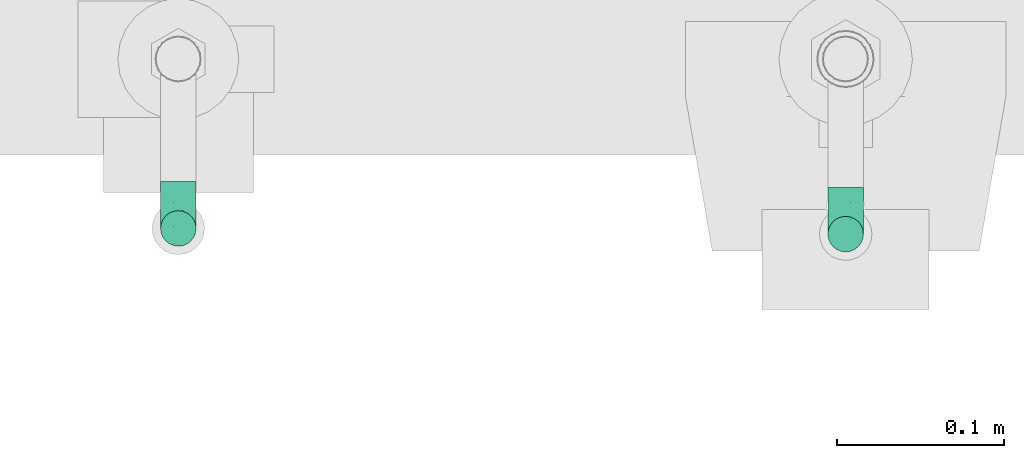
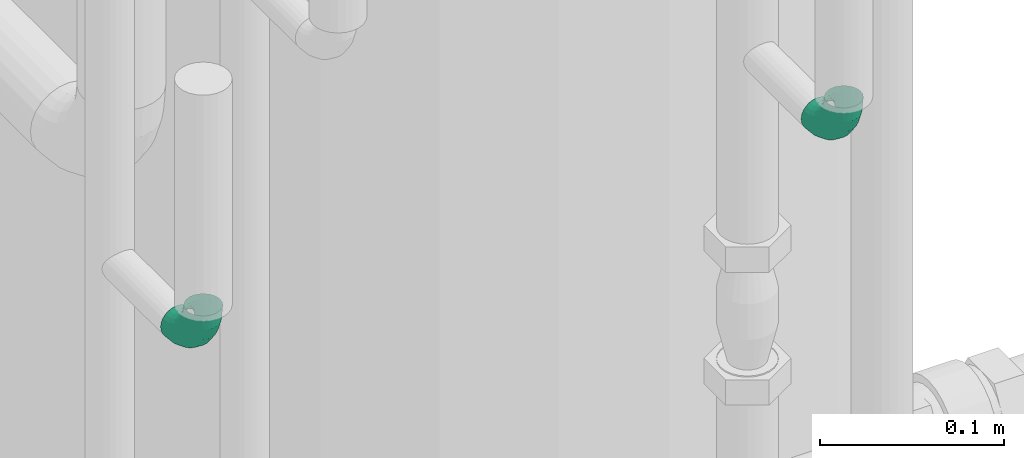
# One storey, part 192 of 374: 2 flow segments.
"""IFC2X3 building model written with IfcOpenShell, lengths in metres."""

from ifc_helpers import new_model, si_unit, direction, origin, place, context, subcontext, project, spatial, open_shell, surface_model, source, transform, mapped, element, save


model = new_model("IFC2X3")

# Units and contexts
model_context = context("Model", 3, precision=1e-05, world=origin(), true_north=direction((-0.4480736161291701, 0.8939966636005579)))
body_context = subcontext(model_context, "Body", "Model", "MODEL_VIEW")
ifc_project = project(units=[si_unit("LENGTHUNIT", "METRE"), si_unit("AREAUNIT", "SQUARE_METRE"), si_unit("VOLUMEUNIT", "CUBIC_METRE"), si_unit("PLANEANGLEUNIT", "RADIAN"), si_unit("THERMODYNAMICTEMPERATUREUNIT", "KELVIN"), si_unit("MASSUNIT", "GRAM", prefix="KILO"), si_unit("TIMEUNIT", "SECOND")], contexts=[model_context])

# Site, building, storey
site_placement = place(None, origin())
site = spatial("IfcSite", under=ifc_project, at=site_placement, Name="Site 1", CompositionType="ELEMENT")
building_placement = place(site_placement, origin())
building = spatial("IfcBuilding", under=site, at=building_placement, Name="Undefined", CompositionType="ELEMENT")
storey_placement = place(building_placement, origin())
storey = spatial("IfcBuildingStorey", under=building, at=storey_placement, Name="Rez de chauss\x8ee", CompositionType="ELEMENT", Elevation=0.0)

# Flow segments
shared_shape_1 = source(origin(), body_context, "Body", "SurfaceModel", [
    surface_model("IfcFaceBasedSurfaceModel", [(0.010089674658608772, 0.0, 1.33226763e-15), (0.010042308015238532, 0.002779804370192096, 1.33226763e-15), (4.73666433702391e-05, 0.0027798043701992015, 4.4408921e-16), (0.0, 0.0, 0.0), (-0.009607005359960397, 0.00311462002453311, -0.0025651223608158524), (-0.00974587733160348, 0.0003379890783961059, -0.0025894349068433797), (-0.01826287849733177, 0.003761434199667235, -0.007520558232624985), (-0.018483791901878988, 0.000990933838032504, -0.007591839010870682), (-0.025330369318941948, 0.004676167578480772, -0.014528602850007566), (-0.025618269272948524, 0.001914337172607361, -0.014666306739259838), (-0.030327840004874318, 0.005796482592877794, -0.023111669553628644), (-0.030663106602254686, 0.003045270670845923, -0.023330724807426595), (-0.03291472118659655, 0.00704603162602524, -0.03268483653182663), (-0.03327450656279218, 0.004306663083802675, -0.0329946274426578), (0.009903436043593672, 0.005463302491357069, -0.000713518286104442), (0.000186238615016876, 0.005463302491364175, -0.0007135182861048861), (-0.009199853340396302, 0.005788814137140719, -0.0032073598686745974), (-0.017615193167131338, 0.006417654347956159, -0.008025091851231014), (-0.02448628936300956, 0.007306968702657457, -0.014838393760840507), (-0.029344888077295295, 0.008396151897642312, -0.023182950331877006), (-0.031859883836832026, 0.009610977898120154, -0.0324900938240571), (0.009682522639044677, 0.007867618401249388, -0.002091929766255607), (0.0004071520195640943, 0.007867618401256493, -0.002091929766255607), (-0.008552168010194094, 0.008178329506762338, -0.004472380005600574), (-0.0165848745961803, 0.008778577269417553, -0.00907105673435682), (-0.023143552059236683, 0.00962745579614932, -0.015574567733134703), (-0.027781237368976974, 0.010667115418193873, -0.023539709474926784), (-0.030181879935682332, 0.011826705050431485, -0.03242367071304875), (0.009394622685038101, 0.009828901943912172, -0.0040412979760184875), (0.000695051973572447, 0.009828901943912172, -0.0040412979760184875), (-0.007708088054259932, 0.010120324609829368, -0.006273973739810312), (-0.015242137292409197, 0.010683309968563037, -0.010587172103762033), (-0.02139366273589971, 0.011479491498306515, -0.01668695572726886), (-0.0257434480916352, 0.012454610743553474, -0.02415763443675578), (-0.027995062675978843, 0.013542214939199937, -0.03249009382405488), (0.00905935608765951, 0.011213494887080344, -0.006428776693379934), (0.0010303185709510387, 0.01121349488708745, -0.006428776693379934), (-0.006725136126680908, 0.011482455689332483, -0.00848936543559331), (-0.0136784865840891, 0.01200204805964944, -0.01247011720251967), (-0.01935587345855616, 0.012736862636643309, -0.018099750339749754), (-0.02337039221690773, 0.013636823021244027, -0.024994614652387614), (-0.02544846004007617, 0.014640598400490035, -0.03268483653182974), (0.008699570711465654, 0.01192703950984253, -0.009091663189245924), (0.001390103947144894, 0.01192703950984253, -0.009091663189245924), (-0.005670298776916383, 0.01217189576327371, -0.010967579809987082), (-0.01200048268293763, 0.012644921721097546, -0.014591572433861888), (-0.017169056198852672, 0.013313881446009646, -0.01971667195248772), (-0.02082378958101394, 0.014133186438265, -0.025993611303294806), (-0.02271561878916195, 0.01504700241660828, -0.032994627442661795), (0.008339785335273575, 0.011920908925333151, -0.011848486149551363), (0.0017498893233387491, 0.011920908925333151, -0.011848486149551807), (-0.0046154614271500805, 0.012141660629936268, -0.013539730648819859), (-0.01032247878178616, 0.012568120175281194, -0.016806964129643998), (-0.014982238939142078, 0.013171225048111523, -0.02142753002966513), (-0.018277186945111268, 0.01390987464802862, -0.027086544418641), (-0.01998277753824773, 0.01473373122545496, -0.033398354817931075), (0.008004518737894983, 0.011195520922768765, -0.01451137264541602), (0.0020851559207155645, 0.011195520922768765, -0.014511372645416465), (-0.003632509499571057, 0.011393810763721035, -0.016030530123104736), (-0.008758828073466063, 0.011776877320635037, -0.018965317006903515), (-0.01294444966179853, 0.012318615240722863, -0.023115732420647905), (-0.01590413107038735, 0.012982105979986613, -0.028198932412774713), (-0.017436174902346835, 0.013722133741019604, -0.03386850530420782), (0.007716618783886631, 0.009800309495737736, -0.016898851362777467), (0.002373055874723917, 0.009800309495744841, -0.016898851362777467), (-0.0027884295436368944, 0.009979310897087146, -0.018270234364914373), (-0.007416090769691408, 0.010325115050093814, -0.020919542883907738), (-0.01119456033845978, 0.010814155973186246, -0.024666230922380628), (-0.013866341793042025, 0.011413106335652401, -0.02925496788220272), (-0.015249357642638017, 0.012081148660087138, -0.03437303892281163), (0.007495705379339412, 0.007830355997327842, -0.018848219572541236), (0.002593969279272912, 0.007830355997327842, -0.018848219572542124), (-0.00214074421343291, 0.00799455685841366, -0.02010621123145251), (-0.006385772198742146, 0.008311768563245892, -0.022536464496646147), (-0.009851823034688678, 0.008760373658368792, -0.025973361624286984), (-0.012302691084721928, 0.00930980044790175, -0.03018268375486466), (-0.013571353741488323, 0.009922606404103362, -0.034877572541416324), (0.007356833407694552, 0.0054199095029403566, -0.020226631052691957), (0.002732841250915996, 0.005419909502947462, -0.0202266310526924), (-0.0017335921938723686, 0.005574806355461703, -0.021413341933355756), (-0.005738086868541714, 0.005874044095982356, -0.023705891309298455), (-0.009007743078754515, 0.006297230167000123, -0.026948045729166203), (-0.011319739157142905, 0.006815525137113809, -0.030918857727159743), (-0.012516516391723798, 0.007393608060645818, -0.03534772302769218), (0.007309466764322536, 0.0027332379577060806, -0.020940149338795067), (0.0027802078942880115, 0.002733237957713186, -0.020940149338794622), (-0.001594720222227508, 0.0028849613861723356, -0.022102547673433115), (-0.0055171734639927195, 0.0031780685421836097, -0.024348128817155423), (-0.008719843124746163, 0.003592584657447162, -0.027523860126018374), (-0.010984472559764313, 0.004100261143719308, -0.03141332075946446), (-0.012156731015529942, 0.004666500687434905, -0.035751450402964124), (0.0073568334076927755, -4.6566412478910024e-05, -0.020940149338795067), (0.002732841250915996, -4.6566412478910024e-05, -0.02094014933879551), (-0.0017335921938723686, 0.00010833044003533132, -0.022126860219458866), (-0.005738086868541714, 0.00040756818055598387, -0.024419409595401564), (-0.009007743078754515, 0.0008307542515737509, -0.027661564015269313), (-0.011319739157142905, 0.0013490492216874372, -0.03163237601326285), (-0.012516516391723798, 0.0019271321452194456, -0.03606124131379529), (0.007495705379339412, -0.002730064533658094, -0.020226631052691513), (0.002593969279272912, -0.002730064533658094, -0.0202266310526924), (-0.00214074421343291, -0.002565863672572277, -0.021484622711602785), (-0.006385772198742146, -0.002248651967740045, -0.023914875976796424), (-0.009851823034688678, -0.0018000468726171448, -0.02735177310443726), (-0.012302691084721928, -0.0012506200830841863, -0.031561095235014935), (-0.013571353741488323, -0.0006378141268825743, -0.0362559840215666), (0.007716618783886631, -0.005134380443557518, -0.01884821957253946), (0.002373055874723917, -0.0051343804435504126, -0.01884821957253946), (-0.0027884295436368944, -0.004955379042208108, -0.020219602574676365), (-0.007416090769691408, -0.00460957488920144, -0.02286891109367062), (-0.01119456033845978, -0.004120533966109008, -0.026615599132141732), (-0.013866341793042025, -0.0035215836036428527, -0.031204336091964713), (-0.015249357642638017, -0.002853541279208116, -0.03632240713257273), (0.008004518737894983, -0.007095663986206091, -0.01689885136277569), (0.0020851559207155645, -0.007095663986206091, -0.016898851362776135), (-0.003632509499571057, -0.006897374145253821, -0.018418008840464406), (-0.008758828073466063, -0.006514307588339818, -0.021352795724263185), (-0.01294444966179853, -0.005972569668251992, -0.025503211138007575), (-0.01590413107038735, -0.005309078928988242, -0.030586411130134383), (-0.017436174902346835, -0.0045690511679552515, -0.03625598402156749), (0.008339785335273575, -0.008480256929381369, -0.014511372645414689), (0.0017498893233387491, -0.008480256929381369, -0.014511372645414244), (-0.0046154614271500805, -0.008259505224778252, -0.016202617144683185), (-0.01032247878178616, -0.007833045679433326, -0.019469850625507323), (-0.014982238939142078, -0.007229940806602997, -0.024090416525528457), (-0.018277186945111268, -0.006491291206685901, -0.029749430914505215), (-0.01998277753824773, -0.00566743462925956, -0.0360612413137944), (0.008699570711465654, -0.009193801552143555, -0.011848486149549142), (0.001390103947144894, -0.009193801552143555, -0.011848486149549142), (-0.005670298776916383, -0.008948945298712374, -0.013724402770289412), (-0.01200048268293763, -0.008475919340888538, -0.017348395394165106), (-0.017169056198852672, -0.007806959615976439, -0.022473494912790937), (-0.02082378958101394, -0.006987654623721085, -0.028750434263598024), (-0.02271561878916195, -0.006073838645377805, -0.035751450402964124), (0.00905935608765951, -0.009187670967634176, -0.00909166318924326), (0.0010303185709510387, -0.00918767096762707, -0.00909166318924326), (-0.006725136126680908, -0.008918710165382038, -0.011152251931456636), (-0.0136784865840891, -0.00839911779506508, -0.015133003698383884), (-0.01935587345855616, -0.007664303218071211, -0.02076263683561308), (-0.02337039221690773, -0.006764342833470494, -0.02765750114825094), (-0.02544846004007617, -0.005760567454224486, -0.03534772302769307), (0.009394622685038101, -0.008462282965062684, -0.006428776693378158), (0.000695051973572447, -0.008462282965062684, -0.006428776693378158), (-0.007708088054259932, -0.008170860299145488, -0.008661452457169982), (-0.015242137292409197, -0.0076078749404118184, -0.012974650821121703), (-0.02139366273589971, -0.00681169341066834, -0.01907443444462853), (-0.0257434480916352, -0.005836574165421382, -0.02654511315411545), (-0.027995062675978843, -0.004748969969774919, -0.03487757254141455), (0.009682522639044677, -0.007067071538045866, -0.004041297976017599), (0.0004071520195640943, -0.0070670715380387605, -0.004041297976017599), (-0.008552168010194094, -0.006756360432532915, -0.006421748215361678), (-0.0165848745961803, -0.0061561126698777, -0.011020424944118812), (-0.023143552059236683, -0.0053072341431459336, -0.017523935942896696), (-0.027781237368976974, -0.0042675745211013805, -0.02548907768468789), (-0.030181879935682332, -0.0031079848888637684, -0.03437303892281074), (0.009903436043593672, -0.005097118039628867, -0.0020919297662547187), (0.000186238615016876, -0.005097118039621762, -0.002091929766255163), (-0.009199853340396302, -0.004771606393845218, -0.004585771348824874), (-0.017615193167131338, -0.004142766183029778, -0.009403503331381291), (-0.02448628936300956, -0.0032534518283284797, -0.016216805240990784), (-0.029344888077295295, -0.0021642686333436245, -0.024561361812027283), (-0.031859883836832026, -0.0009494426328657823, -0.033868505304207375), (0.010042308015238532, -0.002686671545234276, -0.0007135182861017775), (4.73666433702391e-05, -0.0026866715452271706, -0.0007135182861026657), (-0.009607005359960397, -0.002351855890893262, -0.003278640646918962), (-0.01826287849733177, -0.0017050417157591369, -0.008234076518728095), (-0.025330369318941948, -0.0007903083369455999, -0.015242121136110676), (-0.030327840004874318, 0.0003300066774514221, -0.023825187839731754), (-0.03291472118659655, 0.0015795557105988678, -0.03339835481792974)], [open_shell([[[0, 1, 2, 3]], [[3, 2, 4, 5]], [[5, 4, 6, 7]], [[7, 6, 8, 9]], [[9, 8, 10, 11]], [[11, 10, 12, 13]], [[1, 14, 15, 2]], [[2, 15, 16, 4]], [[4, 16, 17, 6]], [[6, 17, 18, 8]], [[8, 18, 19, 10]], [[10, 19, 20, 12]], [[14, 21, 22, 15]], [[15, 22, 23, 16]], [[16, 23, 24, 17]], [[17, 24, 25, 18]], [[18, 25, 26, 19]], [[19, 26, 27, 20]], [[21, 28, 29, 22]], [[22, 29, 30, 23]], [[23, 30, 31, 24]], [[24, 31, 32, 25]], [[25, 32, 33, 26]], [[26, 33, 34, 27]], [[28, 35, 36, 29]], [[29, 36, 37, 30]], [[30, 37, 38, 31]], [[31, 38, 39, 32]], [[32, 39, 40, 33]], [[33, 40, 41, 34]], [[35, 42, 43, 36]], [[36, 43, 44, 37]], [[37, 44, 45, 38]], [[38, 45, 46, 39]], [[39, 46, 47, 40]], [[40, 47, 48, 41]], [[42, 49, 50, 43]], [[43, 50, 51, 44]], [[44, 51, 52, 45]], [[45, 52, 53, 46]], [[46, 53, 54, 47]], [[47, 54, 55, 48]], [[49, 56, 57, 50]], [[50, 57, 58, 51]], [[51, 58, 59, 52]], [[52, 59, 60, 53]], [[53, 60, 61, 54]], [[54, 61, 62, 55]], [[56, 63, 64, 57]], [[57, 64, 65, 58]], [[58, 65, 66, 59]], [[59, 66, 67, 60]], [[60, 67, 68, 61]], [[61, 68, 69, 62]], [[63, 70, 71, 64]], [[64, 71, 72, 65]], [[65, 72, 73, 66]], [[66, 73, 74, 67]], [[67, 74, 75, 68]], [[68, 75, 76, 69]], [[70, 77, 78, 71]], [[71, 78, 79, 72]], [[72, 79, 80, 73]], [[73, 80, 81, 74]], [[74, 81, 82, 75]], [[75, 82, 83, 76]], [[77, 84, 85, 78]], [[78, 85, 86, 79]], [[79, 86, 87, 80]], [[80, 87, 88, 81]], [[81, 88, 89, 82]], [[82, 89, 90, 83]], [[84, 91, 92, 85]], [[85, 92, 93, 86]], [[86, 93, 94, 87]], [[87, 94, 95, 88]], [[88, 95, 96, 89]], [[89, 96, 97, 90]], [[91, 98, 99, 92]], [[92, 99, 100, 93]], [[93, 100, 101, 94]], [[94, 101, 102, 95]], [[95, 102, 103, 96]], [[96, 103, 104, 97]], [[98, 105, 106, 99]], [[99, 106, 107, 100]], [[100, 107, 108, 101]], [[101, 108, 109, 102]], [[102, 109, 110, 103]], [[103, 110, 111, 104]], [[105, 112, 113, 106]], [[106, 113, 114, 107]], [[107, 114, 115, 108]], [[108, 115, 116, 109]], [[109, 116, 117, 110]], [[110, 117, 118, 111]], [[112, 119, 120, 113]], [[113, 120, 121, 114]], [[114, 121, 122, 115]], [[115, 122, 123, 116]], [[116, 123, 124, 117]], [[117, 124, 125, 118]], [[119, 126, 127, 120]], [[120, 127, 128, 121]], [[121, 128, 129, 122]], [[122, 129, 130, 123]], [[123, 130, 131, 124]], [[124, 131, 132, 125]], [[126, 133, 134, 127]], [[127, 134, 135, 128]], [[128, 135, 136, 129]], [[129, 136, 137, 130]], [[130, 137, 138, 131]], [[131, 138, 139, 132]], [[133, 140, 141, 134]], [[134, 141, 142, 135]], [[135, 142, 143, 136]], [[136, 143, 144, 137]], [[137, 144, 145, 138]], [[138, 145, 146, 139]], [[140, 147, 148, 141]], [[141, 148, 149, 142]], [[142, 149, 150, 143]], [[143, 150, 151, 144]], [[144, 151, 152, 145]], [[145, 152, 153, 146]], [[147, 154, 155, 148]], [[148, 155, 156, 149]], [[149, 156, 157, 150]], [[150, 157, 158, 151]], [[151, 158, 159, 152]], [[152, 159, 160, 153]], [[154, 161, 162, 155]], [[155, 162, 163, 156]], [[156, 163, 164, 157]], [[157, 164, 165, 158]], [[158, 165, 166, 159]], [[159, 166, 167, 160]], [[161, 0, 3, 162]], [[162, 3, 5, 163]], [[163, 5, 7, 164]], [[164, 7, 9, 165]], [[165, 9, 11, 166]], [[166, 11, 13, 167]]])]),
])
flow_segment_1_placement = place(storey_placement, origin())
element("IfcFlowSegment", 1, at=flow_segment_1_placement, inside=storey, Name="Tube coudé", ObjectType="Tube coudé", context=body_context, shape_type="MappedRepresentation", body=[
    mapped(shared_shape_1, transform((52.857562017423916, 10.63458368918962, 1.455886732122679), x_axis=(0.0, 0.9914448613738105, -0.13052619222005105), y_axis=(0.9915887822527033, 0.016893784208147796, 0.12832103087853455), z_axis=(0.1294283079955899, -0.12942830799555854, -0.9831056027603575))),
])
shared_shape_2 = source(origin(), body_context, "Body", "SurfaceModel", [
    surface_model("IfcFaceBasedSurfaceModel", [(0.010089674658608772, 0.0, 1.33226763e-15), (0.010042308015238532, 0.002779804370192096, 1.33226763e-15), (4.73666433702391e-05, 0.0027798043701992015, 4.4408921e-16), (0.0, 0.0, 0.0), (-0.009607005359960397, 0.00311462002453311, -0.0025651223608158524), (-0.00974587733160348, 0.0003379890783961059, -0.0025894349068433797), (-0.01826287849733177, 0.003761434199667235, -0.007520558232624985), (-0.018483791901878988, 0.000990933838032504, -0.007591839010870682), (-0.025330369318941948, 0.004676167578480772, -0.014528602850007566), (-0.025618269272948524, 0.001914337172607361, -0.014666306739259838), (-0.030327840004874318, 0.005796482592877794, -0.023111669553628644), (-0.030663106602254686, 0.003045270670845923, -0.023330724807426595), (-0.03291472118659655, 0.00704603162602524, -0.03268483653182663), (-0.03327450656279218, 0.004306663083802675, -0.0329946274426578), (0.009903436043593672, 0.005463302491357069, -0.000713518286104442), (0.000186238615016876, 0.005463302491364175, -0.0007135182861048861), (-0.009199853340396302, 0.005788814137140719, -0.0032073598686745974), (-0.017615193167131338, 0.006417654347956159, -0.008025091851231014), (-0.02448628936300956, 0.007306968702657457, -0.014838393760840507), (-0.029344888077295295, 0.008396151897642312, -0.023182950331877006), (-0.031859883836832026, 0.009610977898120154, -0.0324900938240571), (0.009682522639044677, 0.007867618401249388, -0.002091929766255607), (0.0004071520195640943, 0.007867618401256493, -0.002091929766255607), (-0.008552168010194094, 0.008178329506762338, -0.004472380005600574), (-0.0165848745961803, 0.008778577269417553, -0.00907105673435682), (-0.023143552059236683, 0.00962745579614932, -0.015574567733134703), (-0.027781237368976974, 0.010667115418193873, -0.023539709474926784), (-0.030181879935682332, 0.011826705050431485, -0.03242367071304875), (0.009394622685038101, 0.009828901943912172, -0.0040412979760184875), (0.000695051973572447, 0.009828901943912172, -0.0040412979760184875), (-0.007708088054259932, 0.010120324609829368, -0.006273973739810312), (-0.015242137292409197, 0.010683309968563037, -0.010587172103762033), (-0.02139366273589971, 0.011479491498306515, -0.01668695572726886), (-0.0257434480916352, 0.012454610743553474, -0.02415763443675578), (-0.027995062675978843, 0.013542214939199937, -0.03249009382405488), (0.00905935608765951, 0.011213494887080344, -0.006428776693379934), (0.0010303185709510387, 0.01121349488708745, -0.006428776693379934), (-0.006725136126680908, 0.011482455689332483, -0.00848936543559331), (-0.0136784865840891, 0.01200204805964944, -0.01247011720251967), (-0.01935587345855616, 0.012736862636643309, -0.018099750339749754), (-0.02337039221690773, 0.013636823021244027, -0.024994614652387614), (-0.02544846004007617, 0.014640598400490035, -0.03268483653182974), (0.008699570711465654, 0.01192703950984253, -0.009091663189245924), (0.001390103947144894, 0.01192703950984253, -0.009091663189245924), (-0.005670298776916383, 0.01217189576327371, -0.010967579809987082), (-0.01200048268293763, 0.012644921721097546, -0.014591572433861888), (-0.017169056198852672, 0.013313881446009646, -0.01971667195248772), (-0.02082378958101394, 0.014133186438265, -0.025993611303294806), (-0.02271561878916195, 0.01504700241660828, -0.032994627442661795), (0.008339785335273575, 0.011920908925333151, -0.011848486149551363), (0.0017498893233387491, 0.011920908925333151, -0.011848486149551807), (-0.0046154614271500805, 0.012141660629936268, -0.013539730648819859), (-0.01032247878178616, 0.012568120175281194, -0.016806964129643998), (-0.014982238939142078, 0.013171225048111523, -0.02142753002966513), (-0.018277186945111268, 0.01390987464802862, -0.027086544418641), (-0.01998277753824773, 0.01473373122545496, -0.033398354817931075), (0.008004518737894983, 0.011195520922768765, -0.01451137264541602), (0.0020851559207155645, 0.011195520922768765, -0.014511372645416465), (-0.003632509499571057, 0.011393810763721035, -0.016030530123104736), (-0.008758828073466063, 0.011776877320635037, -0.018965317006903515), (-0.01294444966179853, 0.012318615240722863, -0.023115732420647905), (-0.01590413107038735, 0.012982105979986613, -0.028198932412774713), (-0.017436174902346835, 0.013722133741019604, -0.03386850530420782), (0.007716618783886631, 0.009800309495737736, -0.016898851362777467), (0.002373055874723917, 0.009800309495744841, -0.016898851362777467), (-0.0027884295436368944, 0.009979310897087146, -0.018270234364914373), (-0.007416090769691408, 0.010325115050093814, -0.020919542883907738), (-0.01119456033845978, 0.010814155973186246, -0.024666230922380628), (-0.013866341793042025, 0.011413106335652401, -0.02925496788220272), (-0.015249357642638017, 0.012081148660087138, -0.03437303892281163), (0.007495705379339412, 0.007830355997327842, -0.018848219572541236), (0.002593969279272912, 0.007830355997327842, -0.018848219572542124), (-0.00214074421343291, 0.00799455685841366, -0.02010621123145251), (-0.006385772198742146, 0.008311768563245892, -0.022536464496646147), (-0.009851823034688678, 0.008760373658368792, -0.025973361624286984), (-0.012302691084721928, 0.00930980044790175, -0.03018268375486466), (-0.013571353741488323, 0.009922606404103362, -0.034877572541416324), (0.007356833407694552, 0.0054199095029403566, -0.020226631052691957), (0.002732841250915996, 0.005419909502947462, -0.0202266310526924), (-0.0017335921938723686, 0.005574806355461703, -0.021413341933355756), (-0.005738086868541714, 0.005874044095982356, -0.023705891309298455), (-0.009007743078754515, 0.006297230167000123, -0.026948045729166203), (-0.011319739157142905, 0.006815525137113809, -0.030918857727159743), (-0.012516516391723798, 0.007393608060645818, -0.03534772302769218), (0.007309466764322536, 0.0027332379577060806, -0.020940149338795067), (0.0027802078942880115, 0.002733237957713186, -0.020940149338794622), (-0.001594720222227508, 0.0028849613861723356, -0.022102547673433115), (-0.0055171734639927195, 0.0031780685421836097, -0.024348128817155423), (-0.008719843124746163, 0.003592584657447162, -0.027523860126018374), (-0.010984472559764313, 0.004100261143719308, -0.03141332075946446), (-0.012156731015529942, 0.004666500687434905, -0.035751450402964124), (0.0073568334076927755, -4.6566412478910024e-05, -0.020940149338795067), (0.0027328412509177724, -4.656641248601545e-05, -0.0209401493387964), (-0.0017335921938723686, 0.00010833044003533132, -0.022126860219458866), (-0.005738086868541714, 0.00040756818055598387, -0.024419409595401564), (-0.009007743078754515, 0.0008307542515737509, -0.027661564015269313), (-0.011319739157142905, 0.0013490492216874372, -0.03163237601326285), (-0.012516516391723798, 0.0019271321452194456, -0.03606124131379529), (0.007495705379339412, -0.002730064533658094, -0.020226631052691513), (0.002593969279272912, -0.002730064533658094, -0.0202266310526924), (-0.00214074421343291, -0.002565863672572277, -0.021484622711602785), (-0.006385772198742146, -0.002248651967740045, -0.023914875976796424), (-0.009851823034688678, -0.0018000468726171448, -0.02735177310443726), (-0.012302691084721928, -0.0012506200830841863, -0.031561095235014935), (-0.013571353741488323, -0.0006378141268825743, -0.0362559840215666), (0.007716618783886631, -0.005134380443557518, -0.01884821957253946), (0.002373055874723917, -0.0051343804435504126, -0.01884821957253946), (-0.0027884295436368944, -0.004955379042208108, -0.020219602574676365), (-0.007416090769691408, -0.00460957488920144, -0.02286891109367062), (-0.01119456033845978, -0.004120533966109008, -0.026615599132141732), (-0.013866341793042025, -0.0035215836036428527, -0.031204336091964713), (-0.015249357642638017, -0.002853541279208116, -0.03632240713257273), (0.008004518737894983, -0.007095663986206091, -0.01689885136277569), (0.0020851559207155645, -0.007095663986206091, -0.016898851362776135), (-0.003632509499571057, -0.006897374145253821, -0.018418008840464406), (-0.008758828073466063, -0.006514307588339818, -0.021352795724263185), (-0.01294444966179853, -0.005972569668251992, -0.025503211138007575), (-0.01590413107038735, -0.005309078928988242, -0.030586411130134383), (-0.017436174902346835, -0.0045690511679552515, -0.03625598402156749), (0.008339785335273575, -0.008480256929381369, -0.014511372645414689), (0.0017498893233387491, -0.008480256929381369, -0.014511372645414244), (-0.0046154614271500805, -0.008259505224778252, -0.016202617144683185), (-0.01032247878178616, -0.007833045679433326, -0.019469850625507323), (-0.014982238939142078, -0.007229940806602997, -0.024090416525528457), (-0.018277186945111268, -0.006491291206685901, -0.029749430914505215), (-0.01998277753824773, -0.00566743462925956, -0.0360612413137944), (0.008699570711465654, -0.009193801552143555, -0.011848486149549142), (0.001390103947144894, -0.009193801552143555, -0.011848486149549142), (-0.005670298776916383, -0.008948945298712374, -0.013724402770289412), (-0.01200048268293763, -0.008475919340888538, -0.017348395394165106), (-0.017169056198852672, -0.007806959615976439, -0.022473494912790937), (-0.02082378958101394, -0.006987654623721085, -0.028750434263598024), (-0.02271561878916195, -0.006073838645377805, -0.035751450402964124), (0.00905935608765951, -0.009187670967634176, -0.00909166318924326), (0.0010303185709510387, -0.00918767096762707, -0.00909166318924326), (-0.006725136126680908, -0.008918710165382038, -0.011152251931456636), (-0.0136784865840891, -0.00839911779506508, -0.015133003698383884), (-0.01935587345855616, -0.007664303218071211, -0.02076263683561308), (-0.02337039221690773, -0.006764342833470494, -0.02765750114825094), (-0.02544846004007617, -0.005760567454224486, -0.03534772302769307), (0.009394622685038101, -0.008462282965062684, -0.006428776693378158), (0.000695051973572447, -0.008462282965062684, -0.006428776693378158), (-0.007708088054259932, -0.008170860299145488, -0.008661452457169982), (-0.015242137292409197, -0.0076078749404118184, -0.012974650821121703), (-0.02139366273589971, -0.00681169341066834, -0.01907443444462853), (-0.0257434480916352, -0.005836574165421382, -0.02654511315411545), (-0.027995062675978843, -0.004748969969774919, -0.03487757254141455), (0.009682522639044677, -0.007067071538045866, -0.004041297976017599), (0.0004071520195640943, -0.0070670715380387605, -0.004041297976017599), (-0.008552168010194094, -0.006756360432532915, -0.006421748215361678), (-0.0165848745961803, -0.0061561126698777, -0.011020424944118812), (-0.023143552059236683, -0.0053072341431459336, -0.017523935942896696), (-0.027781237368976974, -0.0042675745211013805, -0.02548907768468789), (-0.030181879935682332, -0.0031079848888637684, -0.03437303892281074), (0.009903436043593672, -0.005097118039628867, -0.0020919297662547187), (0.000186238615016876, -0.005097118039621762, -0.002091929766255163), (-0.009199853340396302, -0.004771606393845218, -0.004585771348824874), (-0.017615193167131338, -0.004142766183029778, -0.009403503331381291), (-0.02448628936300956, -0.0032534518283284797, -0.016216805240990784), (-0.029344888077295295, -0.0021642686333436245, -0.024561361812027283), (-0.031859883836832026, -0.0009494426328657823, -0.033868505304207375), (0.010042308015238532, -0.002686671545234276, -0.0007135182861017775), (4.73666433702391e-05, -0.0026866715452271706, -0.0007135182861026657), (-0.009607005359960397, -0.002351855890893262, -0.003278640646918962), (-0.01826287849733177, -0.0017050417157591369, -0.008234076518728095), (-0.025330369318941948, -0.0007903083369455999, -0.015242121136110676), (-0.030327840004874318, 0.0003300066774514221, -0.023825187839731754), (-0.03291472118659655, 0.0015795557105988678, -0.03339835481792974)], [open_shell([[[0, 1, 2, 3]], [[3, 2, 4, 5]], [[5, 4, 6, 7]], [[7, 6, 8, 9]], [[9, 8, 10, 11]], [[11, 10, 12, 13]], [[1, 14, 15, 2]], [[2, 15, 16, 4]], [[4, 16, 17, 6]], [[6, 17, 18, 8]], [[8, 18, 19, 10]], [[10, 19, 20, 12]], [[14, 21, 22, 15]], [[15, 22, 23, 16]], [[16, 23, 24, 17]], [[17, 24, 25, 18]], [[18, 25, 26, 19]], [[19, 26, 27, 20]], [[21, 28, 29, 22]], [[22, 29, 30, 23]], [[23, 30, 31, 24]], [[24, 31, 32, 25]], [[25, 32, 33, 26]], [[26, 33, 34, 27]], [[28, 35, 36, 29]], [[29, 36, 37, 30]], [[30, 37, 38, 31]], [[31, 38, 39, 32]], [[32, 39, 40, 33]], [[33, 40, 41, 34]], [[35, 42, 43, 36]], [[36, 43, 44, 37]], [[37, 44, 45, 38]], [[38, 45, 46, 39]], [[39, 46, 47, 40]], [[40, 47, 48, 41]], [[42, 49, 50, 43]], [[43, 50, 51, 44]], [[44, 51, 52, 45]], [[45, 52, 53, 46]], [[46, 53, 54, 47]], [[47, 54, 55, 48]], [[49, 56, 57, 50]], [[50, 57, 58, 51]], [[51, 58, 59, 52]], [[52, 59, 60, 53]], [[53, 60, 61, 54]], [[54, 61, 62, 55]], [[56, 63, 64, 57]], [[57, 64, 65, 58]], [[58, 65, 66, 59]], [[59, 66, 67, 60]], [[60, 67, 68, 61]], [[61, 68, 69, 62]], [[63, 70, 71, 64]], [[64, 71, 72, 65]], [[65, 72, 73, 66]], [[66, 73, 74, 67]], [[67, 74, 75, 68]], [[68, 75, 76, 69]], [[70, 77, 78, 71]], [[71, 78, 79, 72]], [[72, 79, 80, 73]], [[73, 80, 81, 74]], [[74, 81, 82, 75]], [[75, 82, 83, 76]], [[77, 84, 85, 78]], [[78, 85, 86, 79]], [[79, 86, 87, 80]], [[80, 87, 88, 81]], [[81, 88, 89, 82]], [[82, 89, 90, 83]], [[84, 91, 92, 85]], [[85, 92, 93, 86]], [[86, 93, 94, 87]], [[87, 94, 95, 88]], [[88, 95, 96, 89]], [[89, 96, 97, 90]], [[91, 98, 99, 92]], [[92, 99, 100, 93]], [[93, 100, 101, 94]], [[94, 101, 102, 95]], [[95, 102, 103, 96]], [[96, 103, 104, 97]], [[98, 105, 106, 99]], [[99, 106, 107, 100]], [[100, 107, 108, 101]], [[101, 108, 109, 102]], [[102, 109, 110, 103]], [[103, 110, 111, 104]], [[105, 112, 113, 106]], [[106, 113, 114, 107]], [[107, 114, 115, 108]], [[108, 115, 116, 109]], [[109, 116, 117, 110]], [[110, 117, 118, 111]], [[112, 119, 120, 113]], [[113, 120, 121, 114]], [[114, 121, 122, 115]], [[115, 122, 123, 116]], [[116, 123, 124, 117]], [[117, 124, 125, 118]], [[119, 126, 127, 120]], [[120, 127, 128, 121]], [[121, 128, 129, 122]], [[122, 129, 130, 123]], [[123, 130, 131, 124]], [[124, 131, 132, 125]], [[126, 133, 134, 127]], [[127, 134, 135, 128]], [[128, 135, 136, 129]], [[129, 136, 137, 130]], [[130, 137, 138, 131]], [[131, 138, 139, 132]], [[133, 140, 141, 134]], [[134, 141, 142, 135]], [[135, 142, 143, 136]], [[136, 143, 144, 137]], [[137, 144, 145, 138]], [[138, 145, 146, 139]], [[140, 147, 148, 141]], [[141, 148, 149, 142]], [[142, 149, 150, 143]], [[143, 150, 151, 144]], [[144, 151, 152, 145]], [[145, 152, 153, 146]], [[147, 154, 155, 148]], [[148, 155, 156, 149]], [[149, 156, 157, 150]], [[150, 157, 158, 151]], [[151, 158, 159, 152]], [[152, 159, 160, 153]], [[154, 161, 162, 155]], [[155, 162, 163, 156]], [[156, 163, 164, 157]], [[157, 164, 165, 158]], [[158, 165, 166, 159]], [[159, 166, 167, 160]], [[161, 0, 3, 162]], [[162, 3, 5, 163]], [[163, 5, 7, 164]], [[164, 7, 9, 165]], [[165, 9, 11, 166]], [[166, 11, 13, 167]]])]),
])
flow_segment_2_placement = place(storey_placement, origin())
element("IfcFlowSegment", 2, at=flow_segment_2_placement, inside=storey, Name="Tube coudé", ObjectType="Tube coudé", context=body_context, shape_type="MappedRepresentation", body=[
    mapped(shared_shape_2, transform((53.257562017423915, 10.631183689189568, 1.4558867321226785), x_axis=(0.0, 0.9914448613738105, -0.13052619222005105), y_axis=(0.9915887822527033, 0.016893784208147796, 0.12832103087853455), z_axis=(0.1294283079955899, -0.12942830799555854, -0.9831056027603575))),
])

save(model, "model.ifc")
